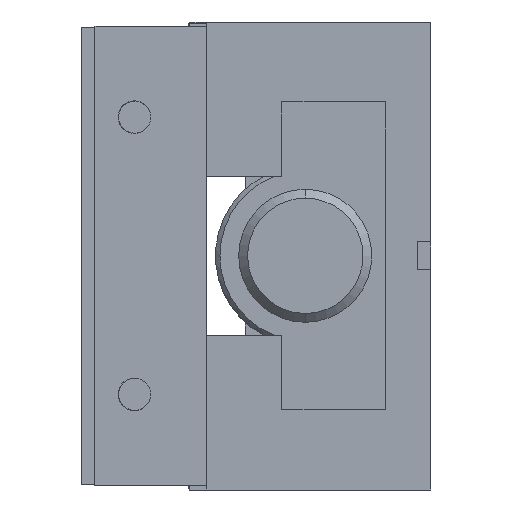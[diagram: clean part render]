
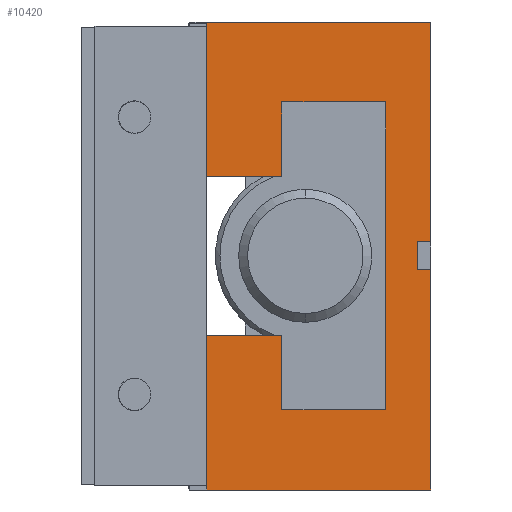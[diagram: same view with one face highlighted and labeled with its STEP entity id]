
A CAD part, left-side view. The second image highlights one B-rep face of the part: STEP entity #10420.
In plain terms, the highlighted planar face has unit normal (-1, 0, 0).
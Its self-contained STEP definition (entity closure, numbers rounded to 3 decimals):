
#379 = CARTESIAN_POINT ( 'NONE',  ( -26.2, 13., -44.056 ) ) ;
#632 = CARTESIAN_POINT ( 'NONE',  ( -26.2, 4., 4. ) ) ;
#824 = LINE ( 'NONE', #8878, #21612 ) ;
#849 = ORIENTED_EDGE ( 'NONE', *, *, #14057, .T. ) ;
#875 = LINE ( 'NONE', #5696, #11258 ) ;
#1037 = VERTEX_POINT ( 'NONE', #25306 ) ;
#1047 = VECTOR ( 'NONE', #2689, 1000. ) ;
#1146 = EDGE_CURVE ( 'NONE', #17614, #1968, #12455, .T. ) ;
#1148 = CARTESIAN_POINT ( 'NONE',  ( -26.2, 64.2, -67.056 ) ) ;
#1454 = DIRECTION ( 'NONE',  ( 0., 0., -1. ) ) ;
#1882 = LINE ( 'NONE', #16146, #12240 ) ;
#1968 = VERTEX_POINT ( 'NONE', #19933 ) ;
#2001 = EDGE_LOOP ( 'NONE', ( #8719, #849, #21911, #2580, #11294, #13514, #7629, #20159, #25889, #17783, #2368, #4234, #9469, #21391, #2429, #2706 ) ) ;
#2006 = VERTEX_POINT ( 'NONE', #6111 ) ;
#2010 = EDGE_CURVE ( 'NONE', #11975, #21631, #22786, .T. ) ;
#2368 = ORIENTED_EDGE ( 'NONE', *, *, #20440, .F. ) ;
#2429 = ORIENTED_EDGE ( 'NONE', *, *, #9302, .T. ) ;
#2580 = ORIENTED_EDGE ( 'NONE', *, *, #14823, .F. ) ;
#2689 = DIRECTION ( 'NONE',  ( 0., 0., -1. ) ) ;
#2706 = ORIENTED_EDGE ( 'NONE', *, *, #1146, .F. ) ;
#3491 = VECTOR ( 'NONE', #5652, 1000. ) ;
#3565 = CARTESIAN_POINT ( 'NONE',  ( -26.2, 13., -44.056 ) ) ;
#3675 = VECTOR ( 'NONE', #4004, 1000. ) ;
#3716 = DIRECTION ( 'NONE',  ( 0., -1., 0. ) ) ;
#3883 = VERTEX_POINT ( 'NONE', #5863 ) ;
#4004 = DIRECTION ( 'NONE',  ( 0., -1., 0. ) ) ;
#4030 = DIRECTION ( 'NONE',  ( 0., 0., 1. ) ) ;
#4234 = ORIENTED_EDGE ( 'NONE', *, *, #13327, .F. ) ;
#4263 = CARTESIAN_POINT ( 'NONE',  ( -26.2, 64.2, 66.944 ) ) ;
#5048 = CARTESIAN_POINT ( 'NONE',  ( -26.2, 64.2, 22.75 ) ) ;
#5378 = VECTOR ( 'NONE', #21868, 1000. ) ;
#5458 = LINE ( 'NONE', #3565, #3491 ) ;
#5577 = DIRECTION ( 'NONE',  ( 0., 0., -1. ) ) ;
#5652 = DIRECTION ( 'NONE',  ( 0., 0., 1. ) ) ;
#5696 = CARTESIAN_POINT ( 'NONE',  ( -26.2, 0., -67.056 ) ) ;
#5863 = CARTESIAN_POINT ( 'NONE',  ( -26.2, 64.2, -67.056 ) ) ;
#5984 = CARTESIAN_POINT ( 'NONE',  ( -26.2, 64.2, 66.944 ) ) ;
#6102 = LINE ( 'NONE', #10594, #24895 ) ;
#6105 = CARTESIAN_POINT ( 'NONE',  ( -26.2, 13., 44.056 ) ) ;
#6111 = CARTESIAN_POINT ( 'NONE',  ( -26.2, 4., 4. ) ) ;
#6655 = CARTESIAN_POINT ( 'NONE',  ( -26.2, 0., -67.056 ) ) ;
#6950 = EDGE_CURVE ( 'NONE', #1037, #11700, #1882, .T. ) ;
#7307 = FACE_OUTER_BOUND ( 'NONE', #2001, .T. ) ;
#7629 = ORIENTED_EDGE ( 'NONE', *, *, #18255, .F. ) ;
#7786 = DIRECTION ( 'NONE',  ( 0., 0., 1. ) ) ;
#7807 = LINE ( 'NONE', #11491, #13304 ) ;
#8149 = LINE ( 'NONE', #21760, #13000 ) ;
#8493 = EDGE_CURVE ( 'NONE', #3883, #15921, #6102, .T. ) ;
#8719 = ORIENTED_EDGE ( 'NONE', *, *, #22666, .F. ) ;
#8878 = CARTESIAN_POINT ( 'NONE',  ( -26.2, 42.7, -22.75 ) ) ;
#9294 = EDGE_CURVE ( 'NONE', #15289, #18505, #11881, .T. ) ;
#9302 = EDGE_CURVE ( 'NONE', #15921, #1968, #875, .T. ) ;
#9410 = CARTESIAN_POINT ( 'NONE',  ( -26.2, 64.2, -67.056 ) ) ;
#9469 = ORIENTED_EDGE ( 'NONE', *, *, #9995, .F. ) ;
#9918 = CARTESIAN_POINT ( 'NONE',  ( -26.2, 4., -4. ) ) ;
#9995 = EDGE_CURVE ( 'NONE', #3883, #10270, #21951, .T. ) ;
#10270 = VERTEX_POINT ( 'NONE', #17289 ) ;
#10420 = ADVANCED_FACE ( 'NONE', ( #7307 ), #11734, .F. ) ;
#10594 = CARTESIAN_POINT ( 'NONE',  ( -26.2, 64.2, -67.056 ) ) ;
#10688 = VERTEX_POINT ( 'NONE', #18879 ) ;
#11258 = VECTOR ( 'NONE', #7786, 1000. ) ;
#11294 = ORIENTED_EDGE ( 'NONE', *, *, #12777, .F. ) ;
#11360 = CARTESIAN_POINT ( 'NONE',  ( -26.2, 4., -4. ) ) ;
#11427 = LINE ( 'NONE', #632, #1047 ) ;
#11491 = CARTESIAN_POINT ( 'NONE',  ( -26.2, 64.2, -22.75 ) ) ;
#11501 = CARTESIAN_POINT ( 'NONE',  ( -26.2, 64.2, -67.056 ) ) ;
#11700 = VERTEX_POINT ( 'NONE', #379 ) ;
#11734 = PLANE ( 'NONE',  #19153 ) ;
#11831 = VECTOR ( 'NONE', #13411, 1000. ) ;
#11881 = LINE ( 'NONE', #24266, #24213 ) ;
#11975 = VERTEX_POINT ( 'NONE', #19136 ) ;
#12240 = VECTOR ( 'NONE', #3716, 1000. ) ;
#12455 = LINE ( 'NONE', #11360, #11831 ) ;
#12562 = DIRECTION ( 'NONE',  ( 0., -1., 0. ) ) ;
#12777 = EDGE_CURVE ( 'NONE', #18505, #25938, #13006, .T. ) ;
#12922 = VERTEX_POINT ( 'NONE', #16439 ) ;
#13000 = VECTOR ( 'NONE', #21849, 1000. ) ;
#13006 = LINE ( 'NONE', #1148, #17908 ) ;
#13304 = VECTOR ( 'NONE', #23921, 1000. ) ;
#13327 = EDGE_CURVE ( 'NONE', #10270, #10688, #7807, .T. ) ;
#13411 = DIRECTION ( 'NONE',  ( 0., -1., 0. ) ) ;
#13514 = ORIENTED_EDGE ( 'NONE', *, *, #9294, .F. ) ;
#14057 = EDGE_CURVE ( 'NONE', #2006, #11975, #20243, .T. ) ;
#14320 = CARTESIAN_POINT ( 'NONE',  ( -26.2, 4., 4. ) ) ;
#14628 = LINE ( 'NONE', #5984, #19528 ) ;
#14823 = EDGE_CURVE ( 'NONE', #25938, #21631, #14628, .T. ) ;
#15289 = VERTEX_POINT ( 'NONE', #20303 ) ;
#15528 = CARTESIAN_POINT ( 'NONE',  ( -26.2, 0., 66.944 ) ) ;
#15921 = VERTEX_POINT ( 'NONE', #6655 ) ;
#16146 = CARTESIAN_POINT ( 'NONE',  ( -26.2, 42.7, -44.056 ) ) ;
#16439 = CARTESIAN_POINT ( 'NONE',  ( -26.2, 42.7, 44.056 ) ) ;
#17271 = VECTOR ( 'NONE', #4030, 1000. ) ;
#17289 = CARTESIAN_POINT ( 'NONE',  ( -26.2, 64.2, -22.75 ) ) ;
#17614 = VERTEX_POINT ( 'NONE', #9918 ) ;
#17783 = ORIENTED_EDGE ( 'NONE', *, *, #6950, .F. ) ;
#17908 = VECTOR ( 'NONE', #26070, 1000. ) ;
#17997 = DIRECTION ( 'NONE',  ( 1., 0., 0. ) ) ;
#18037 = DIRECTION ( 'NONE',  ( 0., 1., 0. ) ) ;
#18255 = EDGE_CURVE ( 'NONE', #12922, #15289, #21852, .T. ) ;
#18505 = VERTEX_POINT ( 'NONE', #5048 ) ;
#18537 = CARTESIAN_POINT ( 'NONE',  ( -26.2, 0., -67.056 ) ) ;
#18556 = EDGE_CURVE ( 'NONE', #23956, #12922, #8149, .T. ) ;
#18879 = CARTESIAN_POINT ( 'NONE',  ( -26.2, 42.7, -22.75 ) ) ;
#19084 = EDGE_CURVE ( 'NONE', #11700, #23956, #5458, .T. ) ;
#19136 = CARTESIAN_POINT ( 'NONE',  ( -26.2, 0., 4. ) ) ;
#19153 = AXIS2_PLACEMENT_3D ( 'NONE', #9410, #17997, #5577 ) ;
#19528 = VECTOR ( 'NONE', #22604, 1000. ) ;
#19933 = CARTESIAN_POINT ( 'NONE',  ( -26.2, 0., -4. ) ) ;
#20159 = ORIENTED_EDGE ( 'NONE', *, *, #18556, .F. ) ;
#20243 = LINE ( 'NONE', #14320, #3675 ) ;
#20303 = CARTESIAN_POINT ( 'NONE',  ( -26.2, 42.7, 22.75 ) ) ;
#20440 = EDGE_CURVE ( 'NONE', #10688, #1037, #824, .T. ) ;
#21391 = ORIENTED_EDGE ( 'NONE', *, *, #8493, .T. ) ;
#21612 = VECTOR ( 'NONE', #23384, 1000. ) ;
#21631 = VERTEX_POINT ( 'NONE', #15528 ) ;
#21760 = CARTESIAN_POINT ( 'NONE',  ( -26.2, 42.7, 44.056 ) ) ;
#21849 = DIRECTION ( 'NONE',  ( 0., 1., 0. ) ) ;
#21852 = LINE ( 'NONE', #24190, #26046 ) ;
#21868 = DIRECTION ( 'NONE',  ( 0., 0., 1. ) ) ;
#21911 = ORIENTED_EDGE ( 'NONE', *, *, #2010, .T. ) ;
#21951 = LINE ( 'NONE', #11501, #5378 ) ;
#22604 = DIRECTION ( 'NONE',  ( 0., -1., 0. ) ) ;
#22666 = EDGE_CURVE ( 'NONE', #2006, #17614, #11427, .T. ) ;
#22786 = LINE ( 'NONE', #18537, #17271 ) ;
#23384 = DIRECTION ( 'NONE',  ( 0., 0., -1. ) ) ;
#23921 = DIRECTION ( 'NONE',  ( 0., -1., 0. ) ) ;
#23956 = VERTEX_POINT ( 'NONE', #6105 ) ;
#24190 = CARTESIAN_POINT ( 'NONE',  ( -26.2, 42.7, 22.75 ) ) ;
#24213 = VECTOR ( 'NONE', #18037, 1000. ) ;
#24266 = CARTESIAN_POINT ( 'NONE',  ( -26.2, 64.2, 22.75 ) ) ;
#24895 = VECTOR ( 'NONE', #12562, 1000. ) ;
#25306 = CARTESIAN_POINT ( 'NONE',  ( -26.2, 42.7, -44.056 ) ) ;
#25889 = ORIENTED_EDGE ( 'NONE', *, *, #19084, .F. ) ;
#25938 = VERTEX_POINT ( 'NONE', #4263 ) ;
#26046 = VECTOR ( 'NONE', #1454, 1000. ) ;
#26070 = DIRECTION ( 'NONE',  ( 0., 0., 1. ) ) ;
